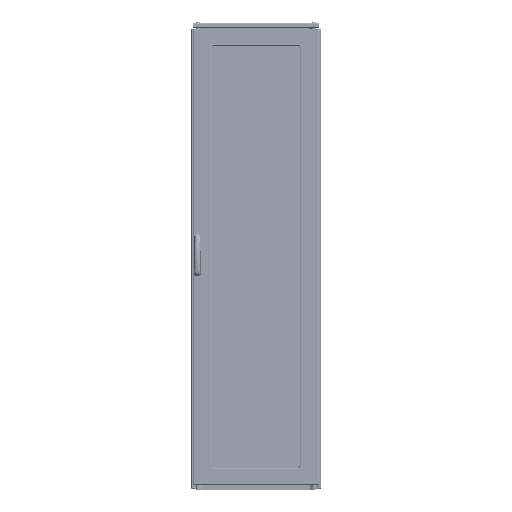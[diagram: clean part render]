
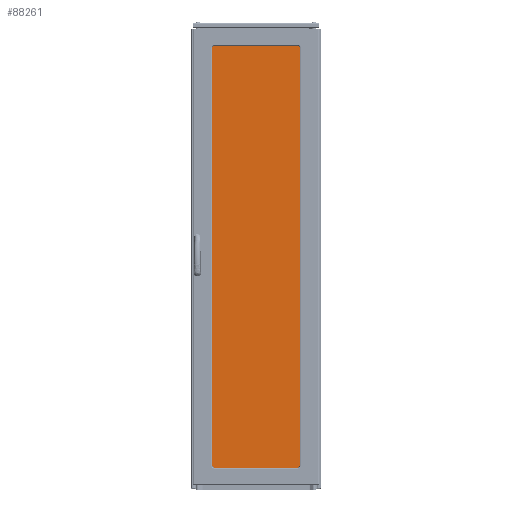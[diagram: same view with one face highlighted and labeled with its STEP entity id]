
A CAD part, top view. The second image highlights one B-rep face of the part: STEP entity #88261.
In plain terms, the highlighted planar face has unit normal (0, 0, 1).
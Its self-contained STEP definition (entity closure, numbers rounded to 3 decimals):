
#1298 = DIRECTION ( 'NONE',  ( 1., 0., 0. ) ) ;
#7926 = LINE ( 'NONE', #338605, #214693 ) ;
#9673 = VERTEX_POINT ( 'NONE', #263946 ) ;
#27612 = VERTEX_POINT ( 'NONE', #33871 ) ;
#33871 = CARTESIAN_POINT ( 'NONE',  ( 0., 0., 4. ) ) ;
#39202 = VECTOR ( 'NONE', #184773, 1000. ) ;
#76505 = DIRECTION ( 'NONE',  ( -1., 0., 0. ) ) ;
#78188 = LINE ( 'NONE', #79959, #165472 ) ;
#79566 = DIRECTION ( 'NONE',  ( 0., 0., 1. ) ) ;
#79959 = CARTESIAN_POINT ( 'NONE',  ( 0., -446., 4. ) ) ;
#88261 = ADVANCED_FACE ( 'NONE', ( #138533 ), #111701, .T. ) ;
#106851 = LINE ( 'NONE', #164028, #310820 ) ;
#111701 = PLANE ( 'NONE',  #111941 ) ;
#111941 = AXIS2_PLACEMENT_3D ( 'NONE', #217298, #79566, #140287 ) ;
#126508 = EDGE_CURVE ( 'NONE', #27612, #9673, #295585, .T. ) ;
#130589 = CARTESIAN_POINT ( 'NONE',  ( 2031., 0., 4. ) ) ;
#134275 = EDGE_CURVE ( 'NONE', #310317, #175512, #7926, .T. ) ;
#138533 = FACE_OUTER_BOUND ( 'NONE', #306437, .T. ) ;
#140287 = DIRECTION ( 'NONE',  ( 1., 0., 0. ) ) ;
#160839 = ORIENTED_EDGE ( 'NONE', *, *, #126508, .T. ) ;
#164028 = CARTESIAN_POINT ( 'NONE',  ( 0., 0., 4. ) ) ;
#165472 = VECTOR ( 'NONE', #1298, 1000. ) ;
#175512 = VERTEX_POINT ( 'NONE', #130589 ) ;
#184773 = DIRECTION ( 'NONE',  ( 0., -1., 0. ) ) ;
#214693 = VECTOR ( 'NONE', #229551, 1000. ) ;
#217298 = CARTESIAN_POINT ( 'NONE',  ( 0., -446., 4. ) ) ;
#222747 = EDGE_CURVE ( 'NONE', #9673, #310317, #78188, .T. ) ;
#229551 = DIRECTION ( 'NONE',  ( 0., 1., 0. ) ) ;
#261721 = CARTESIAN_POINT ( 'NONE',  ( 0., 0., 4. ) ) ;
#263946 = CARTESIAN_POINT ( 'NONE',  ( 0., -446., 4. ) ) ;
#282675 = EDGE_CURVE ( 'NONE', #175512, #27612, #106851, .T. ) ;
#289532 = CARTESIAN_POINT ( 'NONE',  ( 2031., -446., 4. ) ) ;
#295585 = LINE ( 'NONE', #261721, #39202 ) ;
#299664 = ORIENTED_EDGE ( 'NONE', *, *, #222747, .T. ) ;
#306437 = EDGE_LOOP ( 'NONE', ( #160839, #299664, #317331, #308935 ) ) ;
#308935 = ORIENTED_EDGE ( 'NONE', *, *, #282675, .T. ) ;
#310317 = VERTEX_POINT ( 'NONE', #289532 ) ;
#310820 = VECTOR ( 'NONE', #76505, 1000. ) ;
#317331 = ORIENTED_EDGE ( 'NONE', *, *, #134275, .T. ) ;
#338605 = CARTESIAN_POINT ( 'NONE',  ( 2031., 0., 4. ) ) ;
